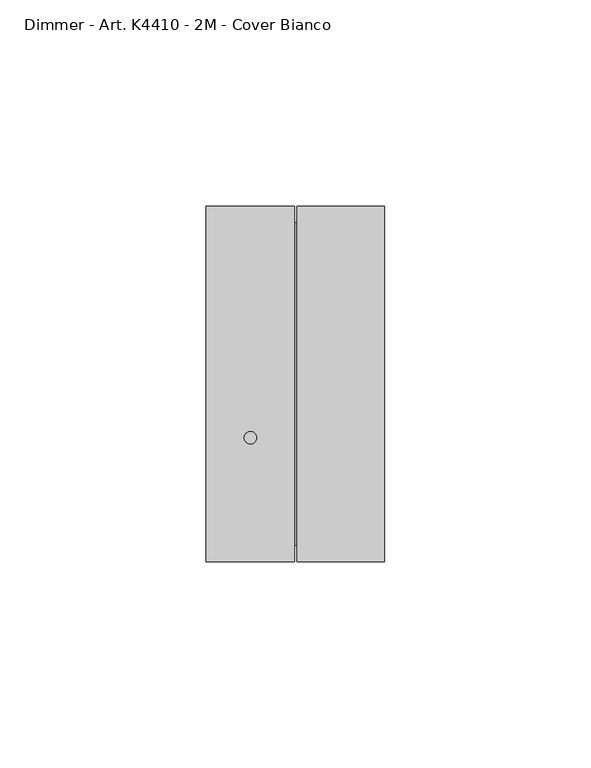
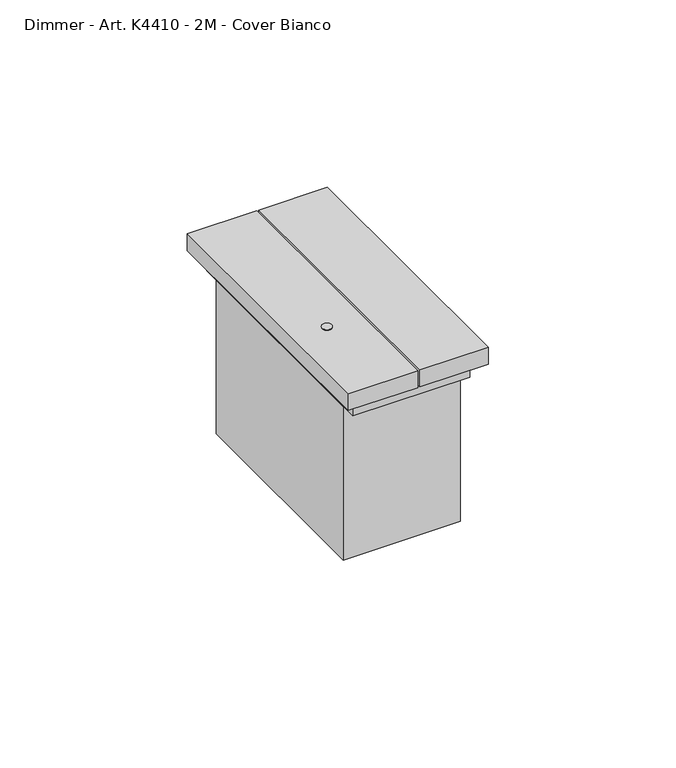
"""IFC4 building model written with IfcOpenShell, lengths in millimetres: proxy geometry, BT_LN-Dimmer : Dimmer - Art. K4410 - 2M - Cover Bianco."""

from ifc_helpers import new_model, si_unit, point, frame, frame_2d, origin, origin_with_axes, place, context, project, spatial, polyline, circle_curve, trimmed, segment, composite_curve, outline, extrude, source, transform, mapped, element, save


def dimmer_art_k4410_2m_cover_bianco_5cf1a9bc(model_context):
    return source(origin(), model_context, "Body", "SweptSolid", [
        extrude(outline(polyline([(-18.0, 39.0), (18.0, 39.0), (18.0, -39.0), (-18.0, -39.0), (-18.0, 39.0)])), frame((0.0, 0.0, 50.0), z_axis=(0.0, 0.0, 1.0), x_axis=(1.0, 0.0, 0.0)), (0.0, 0.0, 1.0), 5.5),
        extrude(outline(polyline([(-18.0, 34.0), (18.0, 34.0), (18.0, -34.0), (-18.0, -34.0), (-18.0, 34.0)])), origin_with_axes(), (0.0, 0.0, 1.0), 50.0),
        extrude(outline(composite_curve([segment(trimmed(circle_curve(frame_2d((-11.0, -13.021265)), 1.5), [point((-12.5, -13.021265))], [point((-9.5, -13.021265))], False, "CARTESIAN"), True, "CONTINUOUS"), segment(trimmed(circle_curve(frame_2d((-11.0, -13.021265)), 1.5), [point((-9.5, -13.021265))], [point((-12.5, -13.021265))], False, "CARTESIAN"), True, "CONTINUOUS")], self_intersect=False)), frame((0.0, 0.0, 55.5), z_axis=(0.0, 0.0, 1.0), x_axis=(1.0, 0.0, 0.0)), (0.0, 0.0, 1.0), 5.5),
        extrude(outline(polyline([(-21.7, -43.0), (-21.7, 43.0), (-0.3, 43.0), (-0.3, -43.0), (-21.7, -43.0)]), holes=[composite_curve([segment(trimmed(circle_curve(frame_2d((-11.0, -13.021265)), 1.5), [point((-12.5, -13.021265))], [point((-9.5, -13.021265))], True, "CARTESIAN"), True, "CONTINUOUS"), segment(trimmed(circle_curve(frame_2d((-11.0, -13.021265)), 1.5), [point((-9.5, -13.021265))], [point((-12.5, -13.021265))], True, "CARTESIAN"), True, "CONTINUOUS")], self_intersect=False)]), frame((0.0, 0.0, 55.5), z_axis=(0.0, 0.0, 1.0), x_axis=(1.0, 0.0, 0.0)), (0.0, 0.0, 1.0), 5.5),
        extrude(outline(polyline([(0.3, -43.0), (0.3, 43.0), (21.5, 43.0), (21.5, -43.0), (0.3, -43.0)])), frame((0.0, 0.0, 55.5), z_axis=(0.0, 0.0, 1.0), x_axis=(1.0, 0.0, 0.0)), (0.0, 0.0, 1.0), 5.5),
    ])


if __name__ == "__main__":
    model = new_model("IFC4")
    model_context = context("Model", 3, world=origin())
    ifc_project = project(units=[si_unit("LENGTHUNIT", "METRE", prefix="MILLI")], contexts=[model_context])
    site = spatial("IfcSite", under=ifc_project)
    building = spatial("IfcBuilding", under=site)
    placement = place(None, origin())
    dimmer_art_k4410_2m_cover_bianco_shape = dimmer_art_k4410_2m_cover_bianco_5cf1a9bc(model_context)
    element("IfcBuildingElementProxy", 1, Name="BT_LN-Dimmer : Dimmer - Art. K4410 - 2M - Cover Bianco", ObjectType="BT_LN-Dimmer : Dimmer - Art. K4410 - 2M - Cover Bianco", at=placement, inside=building, context=model_context, shape_type="MappedRepresentation", body=[
        mapped(dimmer_art_k4410_2m_cover_bianco_shape, transform((0.0, 0.0, 0.0), x_axis=(1.0, 0.0, 0.0), y_axis=(0.0, 1.0, 0.0), z_axis=(0.0, 0.0, 1.0))),
    ])
    save(model, "model.ifc")
